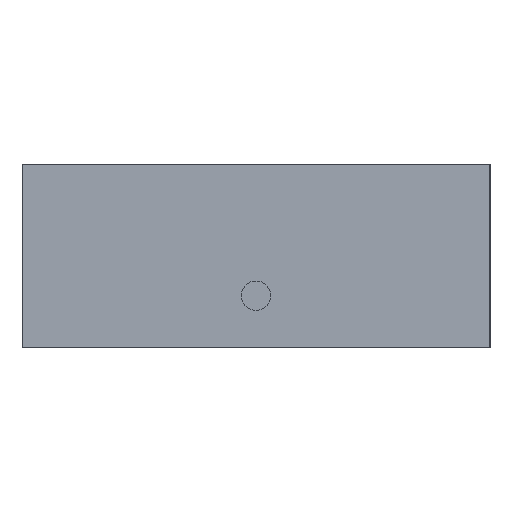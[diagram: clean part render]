
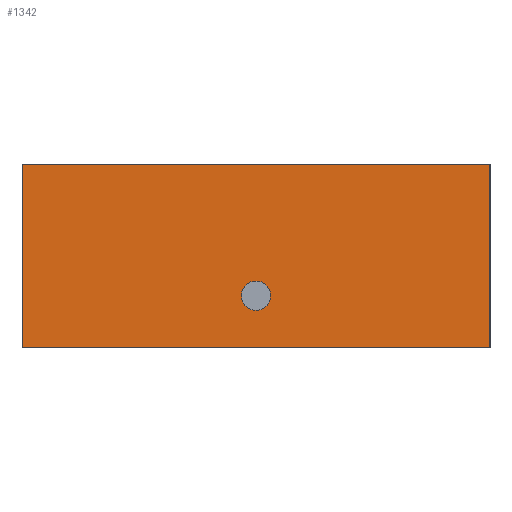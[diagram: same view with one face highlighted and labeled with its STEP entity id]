
A CAD part, left-side view. The second image highlights one B-rep face of the part: STEP entity #1342.
In plain terms, the highlighted planar face has unit normal (-1, 0, 0).
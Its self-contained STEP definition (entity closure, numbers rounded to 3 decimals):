
#126 = PLANE('',#127);
#127 = AXIS2_PLACEMENT_3D('',#128,#129,#130);
#128 = CARTESIAN_POINT('',(105.,95.,100.));
#129 = DIRECTION('',(0.,0.,1.));
#130 = DIRECTION('',(1.,0.,0.));
#217 = EDGE_CURVE('',#218,#220,#222,.T.);
#218 = VERTEX_POINT('',#219);
#219 = CARTESIAN_POINT('',(-122.,-112.,100.));
#220 = VERTEX_POINT('',#221);
#221 = CARTESIAN_POINT('',(-122.,112.,100.));
#222 = SURFACE_CURVE('',#223,(#227,#234),.PCURVE_S1.);
#223 = LINE('',#224,#225);
#224 = CARTESIAN_POINT('',(-122.,-112.,100.));
#225 = VECTOR('',#226,1.);
#226 = DIRECTION('',(0.,1.,0.));
#227 = PCURVE('',#126,#228);
#228 = DEFINITIONAL_REPRESENTATION('',(#229),#233);
#229 = LINE('',#230,#231);
#230 = CARTESIAN_POINT('',(-227.,-207.));
#231 = VECTOR('',#232,1.);
#232 = DIRECTION('',(0.,1.));
#233 = ( GEOMETRIC_REPRESENTATION_CONTEXT(2) 
PARAMETRIC_REPRESENTATION_CONTEXT() REPRESENTATION_CONTEXT('2D SPACE',''
  ) );
#234 = PCURVE('',#235,#240);
#235 = PLANE('',#236);
#236 = AXIS2_PLACEMENT_3D('',#237,#238,#239);
#237 = CARTESIAN_POINT('',(-122.,-15.,22.));
#238 = DIRECTION('',(1.,0.,0.));
#239 = DIRECTION('',(0.,0.,1.));
#240 = DEFINITIONAL_REPRESENTATION('',(#241),#245);
#241 = LINE('',#242,#243);
#242 = CARTESIAN_POINT('',(78.,97.));
#243 = VECTOR('',#244,1.);
#244 = DIRECTION('',(0.,-1.));
#245 = ( GEOMETRIC_REPRESENTATION_CONTEXT(2) 
PARAMETRIC_REPRESENTATION_CONTEXT() REPRESENTATION_CONTEXT('2D SPACE',''
  ) );
#263 = PLANE('',#264);
#264 = AXIS2_PLACEMENT_3D('',#265,#266,#267);
#265 = CARTESIAN_POINT('',(-122.,-112.,12.));
#266 = DIRECTION('',(0.,1.,0.));
#267 = DIRECTION('',(0.,0.,1.));
#317 = PLANE('',#318);
#318 = AXIS2_PLACEMENT_3D('',#319,#320,#321);
#319 = CARTESIAN_POINT('',(-122.,112.,12.));
#320 = DIRECTION('',(0.,1.,0.));
#321 = DIRECTION('',(0.,0.,1.));
#1342 = ADVANCED_FACE('',(#1343,#1418),#235,.F.);
#1343 = FACE_BOUND('',#1344,.F.);
#1344 = EDGE_LOOP('',(#1345,#1368,#1396,#1417));
#1345 = ORIENTED_EDGE('',*,*,#1346,.F.);
#1346 = EDGE_CURVE('',#1347,#218,#1349,.T.);
#1347 = VERTEX_POINT('',#1348);
#1348 = CARTESIAN_POINT('',(-122.,-112.,12.));
#1349 = SURFACE_CURVE('',#1350,(#1354,#1361),.PCURVE_S1.);
#1350 = LINE('',#1351,#1352);
#1351 = CARTESIAN_POINT('',(-122.,-112.,12.));
#1352 = VECTOR('',#1353,1.);
#1353 = DIRECTION('',(0.,0.,1.));
#1354 = PCURVE('',#235,#1355);
#1355 = DEFINITIONAL_REPRESENTATION('',(#1356),#1360);
#1356 = LINE('',#1357,#1358);
#1357 = CARTESIAN_POINT('',(-10.,97.));
#1358 = VECTOR('',#1359,1.);
#1359 = DIRECTION('',(1.,0.));
#1360 = ( GEOMETRIC_REPRESENTATION_CONTEXT(2) 
PARAMETRIC_REPRESENTATION_CONTEXT() REPRESENTATION_CONTEXT('2D SPACE',''
  ) );
#1361 = PCURVE('',#263,#1362);
#1362 = DEFINITIONAL_REPRESENTATION('',(#1363),#1367);
#1363 = LINE('',#1364,#1365);
#1364 = CARTESIAN_POINT('',(0.,0.));
#1365 = VECTOR('',#1366,1.);
#1366 = DIRECTION('',(1.,0.));
#1367 = ( GEOMETRIC_REPRESENTATION_CONTEXT(2) 
PARAMETRIC_REPRESENTATION_CONTEXT() REPRESENTATION_CONTEXT('2D SPACE',''
  ) );
#1368 = ORIENTED_EDGE('',*,*,#1369,.T.);
#1369 = EDGE_CURVE('',#1347,#1370,#1372,.T.);
#1370 = VERTEX_POINT('',#1371);
#1371 = CARTESIAN_POINT('',(-122.,112.,12.));
#1372 = SURFACE_CURVE('',#1373,(#1377,#1384),.PCURVE_S1.);
#1373 = LINE('',#1374,#1375);
#1374 = CARTESIAN_POINT('',(-122.,-112.,12.));
#1375 = VECTOR('',#1376,1.);
#1376 = DIRECTION('',(0.,1.,0.));
#1377 = PCURVE('',#235,#1378);
#1378 = DEFINITIONAL_REPRESENTATION('',(#1379),#1383);
#1379 = LINE('',#1380,#1381);
#1380 = CARTESIAN_POINT('',(-10.,97.));
#1381 = VECTOR('',#1382,1.);
#1382 = DIRECTION('',(0.,-1.));
#1383 = ( GEOMETRIC_REPRESENTATION_CONTEXT(2) 
PARAMETRIC_REPRESENTATION_CONTEXT() REPRESENTATION_CONTEXT('2D SPACE',''
  ) );
#1384 = PCURVE('',#1385,#1390);
#1385 = PLANE('',#1386);
#1386 = AXIS2_PLACEMENT_3D('',#1387,#1388,#1389);
#1387 = CARTESIAN_POINT('',(-122.,-112.,12.));
#1388 = DIRECTION('',(0.,0.,1.));
#1389 = DIRECTION('',(1.,0.,0.));
#1390 = DEFINITIONAL_REPRESENTATION('',(#1391),#1395);
#1391 = LINE('',#1392,#1393);
#1392 = CARTESIAN_POINT('',(0.,0.));
#1393 = VECTOR('',#1394,1.);
#1394 = DIRECTION('',(0.,1.));
#1395 = ( GEOMETRIC_REPRESENTATION_CONTEXT(2) 
PARAMETRIC_REPRESENTATION_CONTEXT() REPRESENTATION_CONTEXT('2D SPACE',''
  ) );
#1396 = ORIENTED_EDGE('',*,*,#1397,.T.);
#1397 = EDGE_CURVE('',#1370,#220,#1398,.T.);
#1398 = SURFACE_CURVE('',#1399,(#1403,#1410),.PCURVE_S1.);
#1399 = LINE('',#1400,#1401);
#1400 = CARTESIAN_POINT('',(-122.,112.,12.));
#1401 = VECTOR('',#1402,1.);
#1402 = DIRECTION('',(0.,0.,1.));
#1403 = PCURVE('',#235,#1404);
#1404 = DEFINITIONAL_REPRESENTATION('',(#1405),#1409);
#1405 = LINE('',#1406,#1407);
#1406 = CARTESIAN_POINT('',(-10.,-127.));
#1407 = VECTOR('',#1408,1.);
#1408 = DIRECTION('',(1.,0.));
#1409 = ( GEOMETRIC_REPRESENTATION_CONTEXT(2) 
PARAMETRIC_REPRESENTATION_CONTEXT() REPRESENTATION_CONTEXT('2D SPACE',''
  ) );
#1410 = PCURVE('',#317,#1411);
#1411 = DEFINITIONAL_REPRESENTATION('',(#1412),#1416);
#1412 = LINE('',#1413,#1414);
#1413 = CARTESIAN_POINT('',(0.,0.));
#1414 = VECTOR('',#1415,1.);
#1415 = DIRECTION('',(1.,0.));
#1416 = ( GEOMETRIC_REPRESENTATION_CONTEXT(2) 
PARAMETRIC_REPRESENTATION_CONTEXT() REPRESENTATION_CONTEXT('2D SPACE',''
  ) );
#1417 = ORIENTED_EDGE('',*,*,#217,.F.);
#1418 = FACE_BOUND('',#1419,.F.);
#1419 = EDGE_LOOP('',(#1420));
#1420 = ORIENTED_EDGE('',*,*,#1421,.F.);
#1421 = EDGE_CURVE('',#1422,#1422,#1424,.T.);
#1422 = VERTEX_POINT('',#1423);
#1423 = CARTESIAN_POINT('',(-122.,0.,30.));
#1424 = SURFACE_CURVE('',#1425,(#1430,#1437),.PCURVE_S1.);
#1425 = CIRCLE('',#1426,7.);
#1426 = AXIS2_PLACEMENT_3D('',#1427,#1428,#1429);
#1427 = CARTESIAN_POINT('',(-122.,0.,37.));
#1428 = DIRECTION('',(1.,0.,0.));
#1429 = DIRECTION('',(0.,0.,-1.));
#1430 = PCURVE('',#235,#1431);
#1431 = DEFINITIONAL_REPRESENTATION('',(#1432),#1436);
#1432 = CIRCLE('',#1433,7.);
#1433 = AXIS2_PLACEMENT_2D('',#1434,#1435);
#1434 = CARTESIAN_POINT('',(15.,-15.));
#1435 = DIRECTION('',(-1.,0.));
#1436 = ( GEOMETRIC_REPRESENTATION_CONTEXT(2) 
PARAMETRIC_REPRESENTATION_CONTEXT() REPRESENTATION_CONTEXT('2D SPACE',''
  ) );
#1437 = PCURVE('',#1438,#1443);
#1438 = CYLINDRICAL_SURFACE('',#1439,7.);
#1439 = AXIS2_PLACEMENT_3D('',#1440,#1441,#1442);
#1440 = CARTESIAN_POINT('',(-137.,0.,37.));
#1441 = DIRECTION('',(1.,0.,0.));
#1442 = DIRECTION('',(0.,0.,-1.));
#1443 = DEFINITIONAL_REPRESENTATION('',(#1444),#1448);
#1444 = LINE('',#1445,#1446);
#1445 = CARTESIAN_POINT('',(0.,15.));
#1446 = VECTOR('',#1447,1.);
#1447 = DIRECTION('',(1.,0.));
#1448 = ( GEOMETRIC_REPRESENTATION_CONTEXT(2) 
PARAMETRIC_REPRESENTATION_CONTEXT() REPRESENTATION_CONTEXT('2D SPACE',''
  ) );
